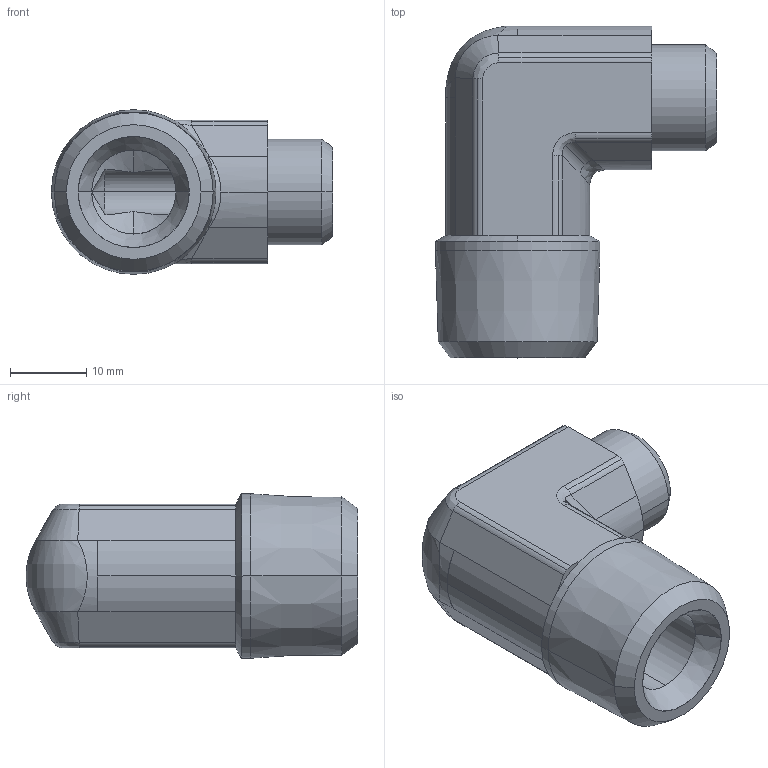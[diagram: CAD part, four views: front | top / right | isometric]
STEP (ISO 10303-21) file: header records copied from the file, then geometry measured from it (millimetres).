
FILE_DESCRIPTION((''),'2;1');
FILE_NAME('102027.stp','2007-10-30T16:36:25',(''),(''),'AutoCAD STEP 2000i','AutoCAD 2000i',', , ');
FILE_SCHEMA(('CONFIG_CONTROL_DESIGN'));
Length unit declared in the file: millimetre
Products named in the file (2): 102027.0; 3090#0
Assembly tree (1 placements, depth 2):
  102027.0
    3090#0
Bounding box: 36.76 x 43.4 x 21.52 mm (x, y, z)
Volume: 12818.1 mm3; surface area: 5728.2 mm2
Topology: 1 solids, 1 shells, 91 faces, 223 edges, 134 vertices
Faces by surface type: cylinder 38, plane 22, cone 17, bspline 14
Entity records: 3577 total; most frequent: CARTESIAN_POINT 1330, DIRECTION 472, ORIENTED_EDGE 442, EDGE_CURVE 221, AXIS2_PLACEMENT_3D 192, VERTEX_POINT 134, CIRCLE 103, EDGE_LOOP 95
